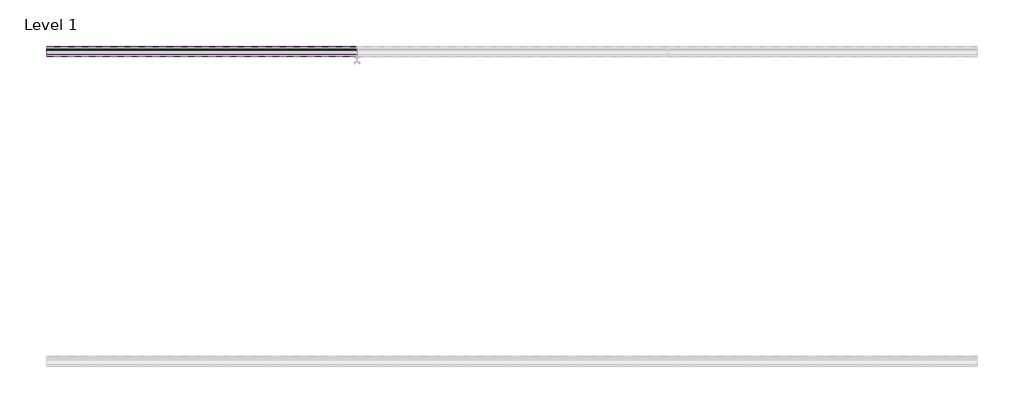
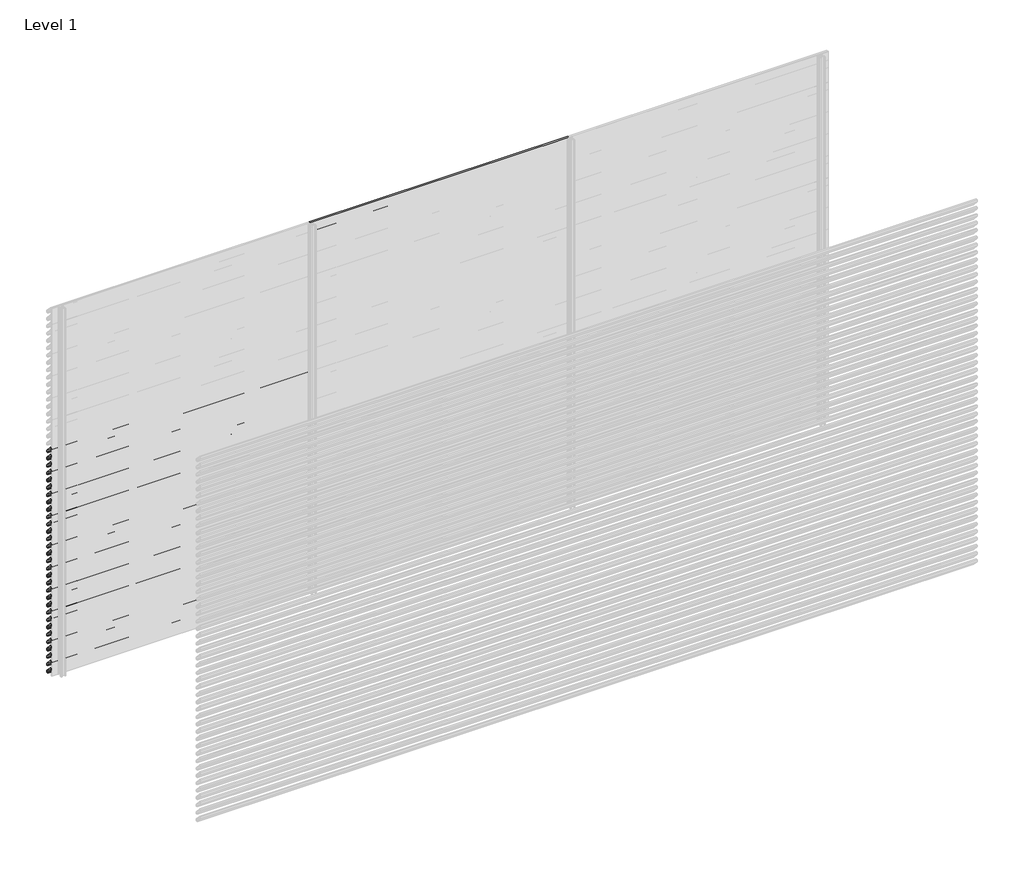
# One storey, part 51 of 153: 33 proxies.
"""IFC4 building model written with IfcOpenShell, lengths in millimetres."""

from ifc_helpers import new_model, si_unit, point, frame, frame_2d, origin, place, context, project, spatial, polyline, circle_curve, trimmed, segment, composite_curve, outline, extrude, element, save

model = new_model("IFC4")

# Units and contexts
model_context = context("Model", 3, world=origin())
ifc_project = project(units=[si_unit("LENGTHUNIT", "METRE", prefix="MILLI")], contexts=[model_context])

# Site, building, storey
site = spatial("IfcSite", under=ifc_project)
building = spatial("IfcBuilding", under=site)
storey = spatial("IfcBuildingStorey", under=building, Name="Level 1", Elevation=0.0)

# Proxies
placement = place(None, origin())
element("IfcBuildingElementProxy", 1, Name="Wall Sweeps", at=placement, inside=storey, context=model_context, shape_type="SweptSolid", body=[
    extrude(outline(composite_curve([segment(polyline([(21485.0540136, 1860.0), (21499.874191, 1858.7034025), (21549.0540136, 1805.0102749), (21549.0540136, 1793.6108187)]), True, "CONTINUOUS"), segment(trimmed(circle_curve(frame_2d((21545.7883652, 1793.897153)), 3.2781774), [point((21549.0540136, 1793.6108187))], [point((21546.4639442, 1790.6893438))], False, "CARTESIAN"), True, "CONTINUOUS"), segment(polyline([(21546.4639442, 1790.6893438), (21534.1895723, 1791.6282758), (21485.0540136, 1845.2730773), (21485.0540136, 1860.0)]), True, "CONTINUOUS")], self_intersect=False), holes=[composite_curve([segment(polyline([(21499.1621773, 1857.2599659), (21486.5540136, 1858.3630372), (21486.5540136, 1845.856213), (21534.8952036, 1793.0786805), (21546.3312542, 1792.2038762)]), True, "CONTINUOUS"), segment(trimmed(circle_curve(frame_2d((21545.7883652, 1793.897153)), 1.7781774), [point((21546.3312542, 1792.2038762))], [point((21547.5540136, 1793.6864389))], True, "CARTESIAN"), True, "CONTINUOUS"), segment(polyline([(21547.5540136, 1793.6864389), (21547.5540136, 1804.4271392), (21499.1621773, 1857.2599659)]), True, "CONTINUOUS")], self_intersect=False)]), frame((44966.6208097, 0.0, 0.0), z_axis=(1.0, 0.0, 0.0), x_axis=(0.0, 1.0, 0.0)), (0.0, 0.0, 1.0), 2000.0000001),
])
element("IfcBuildingElementProxy", 2, Name="Wall Sweeps", at=placement, inside=storey, context=model_context, shape_type="SweptSolid", body=[
    extrude(outline(composite_curve([segment(polyline([(21485.0540136, 1800.0), (21499.874191, 1798.7034025), (21549.0540136, 1745.0102749), (21549.0540136, 1733.6108187)]), True, "CONTINUOUS"), segment(trimmed(circle_curve(frame_2d((21545.7883652, 1733.897153)), 3.2781774), [point((21549.0540136, 1733.6108187))], [point((21546.4639442, 1730.6893438))], False, "CARTESIAN"), True, "CONTINUOUS"), segment(polyline([(21546.4639442, 1730.6893438), (21534.1895723, 1731.6282758), (21485.0540136, 1785.2730773), (21485.0540136, 1800.0)]), True, "CONTINUOUS")], self_intersect=False), holes=[composite_curve([segment(polyline([(21499.1621773, 1797.2599659), (21486.5540136, 1798.3630372), (21486.5540136, 1785.856213), (21534.8952036, 1733.0786805), (21546.3312542, 1732.2038762)]), True, "CONTINUOUS"), segment(trimmed(circle_curve(frame_2d((21545.7883652, 1733.897153)), 1.7781774), [point((21546.3312542, 1732.2038762))], [point((21547.5540136, 1733.6864389))], True, "CARTESIAN"), True, "CONTINUOUS"), segment(polyline([(21547.5540136, 1733.6864389), (21547.5540136, 1744.4271392), (21499.1621773, 1797.2599659)]), True, "CONTINUOUS")], self_intersect=False)]), frame((44966.6208097, 0.0, 0.0), z_axis=(1.0, 0.0, 0.0), x_axis=(0.0, 1.0, 0.0)), (0.0, 0.0, 1.0), 2000.0000001),
])
element("IfcBuildingElementProxy", 3, Name="Wall Sweeps", at=placement, inside=storey, context=model_context, shape_type="SweptSolid", body=[
    extrude(outline(composite_curve([segment(polyline([(21485.0540136, 1740.0), (21499.874191, 1738.7034025), (21549.0540136, 1685.0102749), (21549.0540136, 1673.6108187)]), True, "CONTINUOUS"), segment(trimmed(circle_curve(frame_2d((21545.7883652, 1673.897153)), 3.2781774), [point((21549.0540136, 1673.6108187))], [point((21546.4639442, 1670.6893438))], False, "CARTESIAN"), True, "CONTINUOUS"), segment(polyline([(21546.4639442, 1670.6893438), (21534.1895723, 1671.6282758), (21485.0540136, 1725.2730773), (21485.0540136, 1740.0)]), True, "CONTINUOUS")], self_intersect=False), holes=[composite_curve([segment(polyline([(21499.1621773, 1737.2599659), (21486.5540136, 1738.3630372), (21486.5540136, 1725.856213), (21534.8952036, 1673.0786805), (21546.3312542, 1672.2038762)]), True, "CONTINUOUS"), segment(trimmed(circle_curve(frame_2d((21545.7883652, 1673.897153)), 1.7781774), [point((21546.3312542, 1672.2038762))], [point((21547.5540136, 1673.6864389))], True, "CARTESIAN"), True, "CONTINUOUS"), segment(polyline([(21547.5540136, 1673.6864389), (21547.5540136, 1684.4271392), (21499.1621773, 1737.2599659)]), True, "CONTINUOUS")], self_intersect=False)]), frame((44966.6208097, 0.0, 0.0), z_axis=(1.0, 0.0, 0.0), x_axis=(0.0, 1.0, 0.0)), (0.0, 0.0, 1.0), 2000.0000001),
])
element("IfcBuildingElementProxy", 4, Name="Wall Sweeps", at=placement, inside=storey, context=model_context, shape_type="SweptSolid", body=[
    extrude(outline(composite_curve([segment(polyline([(21485.0540136, 1680.0), (21499.874191, 1678.7034025), (21549.0540136, 1625.0102749), (21549.0540136, 1613.6108187)]), True, "CONTINUOUS"), segment(trimmed(circle_curve(frame_2d((21545.7883652, 1613.897153)), 3.2781774), [point((21549.0540136, 1613.6108187))], [point((21546.4639442, 1610.6893438))], False, "CARTESIAN"), True, "CONTINUOUS"), segment(polyline([(21546.4639442, 1610.6893438), (21534.1895723, 1611.6282758), (21485.0540136, 1665.2730773), (21485.0540136, 1680.0)]), True, "CONTINUOUS")], self_intersect=False), holes=[composite_curve([segment(polyline([(21499.1621773, 1677.2599659), (21486.5540136, 1678.3630372), (21486.5540136, 1665.856213), (21534.8952036, 1613.0786805), (21546.3312542, 1612.2038762)]), True, "CONTINUOUS"), segment(trimmed(circle_curve(frame_2d((21545.7883652, 1613.897153)), 1.7781774), [point((21546.3312542, 1612.2038762))], [point((21547.5540136, 1613.6864389))], True, "CARTESIAN"), True, "CONTINUOUS"), segment(polyline([(21547.5540136, 1613.6864389), (21547.5540136, 1624.4271392), (21499.1621773, 1677.2599659)]), True, "CONTINUOUS")], self_intersect=False)]), frame((44966.6208097, 0.0, 0.0), z_axis=(1.0, 0.0, 0.0), x_axis=(0.0, 1.0, 0.0)), (0.0, 0.0, 1.0), 2000.0000001),
])
element("IfcBuildingElementProxy", 5, Name="Wall Sweeps", at=placement, inside=storey, context=model_context, shape_type="SweptSolid", body=[
    extrude(outline(composite_curve([segment(polyline([(21485.0540136, 1620.0), (21499.874191, 1618.7034025), (21549.0540136, 1565.0102749), (21549.0540136, 1553.6108187)]), True, "CONTINUOUS"), segment(trimmed(circle_curve(frame_2d((21545.7883652, 1553.897153)), 3.2781774), [point((21549.0540136, 1553.6108187))], [point((21546.4639442, 1550.6893438))], False, "CARTESIAN"), True, "CONTINUOUS"), segment(polyline([(21546.4639442, 1550.6893438), (21534.1895723, 1551.6282758), (21485.0540136, 1605.2730773), (21485.0540136, 1620.0)]), True, "CONTINUOUS")], self_intersect=False), holes=[composite_curve([segment(polyline([(21499.1621773, 1617.2599659), (21486.5540136, 1618.3630372), (21486.5540136, 1605.856213), (21534.8952036, 1553.0786805), (21546.3312542, 1552.2038762)]), True, "CONTINUOUS"), segment(trimmed(circle_curve(frame_2d((21545.7883652, 1553.897153)), 1.7781774), [point((21546.3312542, 1552.2038762))], [point((21547.5540136, 1553.6864389))], True, "CARTESIAN"), True, "CONTINUOUS"), segment(polyline([(21547.5540136, 1553.6864389), (21547.5540136, 1564.4271392), (21499.1621773, 1617.2599659)]), True, "CONTINUOUS")], self_intersect=False)]), frame((44966.6208097, 0.0, 0.0), z_axis=(1.0, 0.0, 0.0), x_axis=(0.0, 1.0, 0.0)), (0.0, 0.0, 1.0), 2000.0000001),
])
element("IfcBuildingElementProxy", 6, Name="Wall Sweeps", at=placement, inside=storey, context=model_context, shape_type="SweptSolid", body=[
    extrude(outline(composite_curve([segment(polyline([(21485.0540136, 1560.0), (21499.874191, 1558.7034025), (21549.0540136, 1505.0102749), (21549.0540136, 1493.6108187)]), True, "CONTINUOUS"), segment(trimmed(circle_curve(frame_2d((21545.7883652, 1493.897153)), 3.2781774), [point((21549.0540136, 1493.6108187))], [point((21546.4639442, 1490.6893438))], False, "CARTESIAN"), True, "CONTINUOUS"), segment(polyline([(21546.4639442, 1490.6893438), (21534.1895723, 1491.6282758), (21485.0540136, 1545.2730773), (21485.0540136, 1560.0)]), True, "CONTINUOUS")], self_intersect=False), holes=[composite_curve([segment(polyline([(21499.1621773, 1557.2599659), (21486.5540136, 1558.3630372), (21486.5540136, 1545.856213), (21534.8952036, 1493.0786805), (21546.3312542, 1492.2038762)]), True, "CONTINUOUS"), segment(trimmed(circle_curve(frame_2d((21545.7883652, 1493.897153)), 1.7781774), [point((21546.3312542, 1492.2038762))], [point((21547.5540136, 1493.6864389))], True, "CARTESIAN"), True, "CONTINUOUS"), segment(polyline([(21547.5540136, 1493.6864389), (21547.5540136, 1504.4271392), (21499.1621773, 1557.2599659)]), True, "CONTINUOUS")], self_intersect=False)]), frame((44966.6208097, 0.0, 0.0), z_axis=(1.0, 0.0, 0.0), x_axis=(0.0, 1.0, 0.0)), (0.0, 0.0, 1.0), 2000.0000001),
])
element("IfcBuildingElementProxy", 7, Name="Wall Sweeps", at=placement, inside=storey, context=model_context, shape_type="SweptSolid", body=[
    extrude(outline(composite_curve([segment(polyline([(21485.0540136, 1500.0), (21499.874191, 1498.7034025), (21549.0540136, 1445.0102749), (21549.0540136, 1433.6108187)]), True, "CONTINUOUS"), segment(trimmed(circle_curve(frame_2d((21545.7883652, 1433.897153)), 3.2781774), [point((21549.0540136, 1433.6108187))], [point((21546.4639442, 1430.6893438))], False, "CARTESIAN"), True, "CONTINUOUS"), segment(polyline([(21546.4639442, 1430.6893438), (21534.1895723, 1431.6282758), (21485.0540136, 1485.2730773), (21485.0540136, 1500.0)]), True, "CONTINUOUS")], self_intersect=False), holes=[composite_curve([segment(polyline([(21499.1621773, 1497.2599659), (21486.5540136, 1498.3630372), (21486.5540136, 1485.856213), (21534.8952036, 1433.0786805), (21546.3312542, 1432.2038762)]), True, "CONTINUOUS"), segment(trimmed(circle_curve(frame_2d((21545.7883652, 1433.897153)), 1.7781774), [point((21546.3312542, 1432.2038762))], [point((21547.5540136, 1433.6864389))], True, "CARTESIAN"), True, "CONTINUOUS"), segment(polyline([(21547.5540136, 1433.6864389), (21547.5540136, 1444.4271392), (21499.1621773, 1497.2599659)]), True, "CONTINUOUS")], self_intersect=False)]), frame((44966.6208097, 0.0, 0.0), z_axis=(1.0, 0.0, 0.0), x_axis=(0.0, 1.0, 0.0)), (0.0, 0.0, 1.0), 2000.0000001),
])
element("IfcBuildingElementProxy", 8, Name="Wall Sweeps", at=placement, inside=storey, context=model_context, shape_type="SweptSolid", body=[
    extrude(outline(composite_curve([segment(polyline([(21485.0540136, 1440.0), (21499.874191, 1438.7034025), (21549.0540136, 1385.0102749), (21549.0540136, 1373.6108187)]), True, "CONTINUOUS"), segment(trimmed(circle_curve(frame_2d((21545.7883652, 1373.897153)), 3.2781774), [point((21549.0540136, 1373.6108187))], [point((21546.4639442, 1370.6893438))], False, "CARTESIAN"), True, "CONTINUOUS"), segment(polyline([(21546.4639442, 1370.6893438), (21534.1895723, 1371.6282758), (21485.0540136, 1425.2730773), (21485.0540136, 1440.0)]), True, "CONTINUOUS")], self_intersect=False), holes=[composite_curve([segment(polyline([(21499.1621773, 1437.2599659), (21486.5540136, 1438.3630372), (21486.5540136, 1425.856213), (21534.8952036, 1373.0786805), (21546.3312542, 1372.2038762)]), True, "CONTINUOUS"), segment(trimmed(circle_curve(frame_2d((21545.7883652, 1373.897153)), 1.7781774), [point((21546.3312542, 1372.2038762))], [point((21547.5540136, 1373.6864389))], True, "CARTESIAN"), True, "CONTINUOUS"), segment(polyline([(21547.5540136, 1373.6864389), (21547.5540136, 1384.4271392), (21499.1621773, 1437.2599659)]), True, "CONTINUOUS")], self_intersect=False)]), frame((44966.6208097, 0.0, 0.0), z_axis=(1.0, 0.0, 0.0), x_axis=(0.0, 1.0, 0.0)), (0.0, 0.0, 1.0), 2000.0000001),
])
element("IfcBuildingElementProxy", 9, Name="Wall Sweeps", at=placement, inside=storey, context=model_context, shape_type="SweptSolid", body=[
    extrude(outline(composite_curve([segment(polyline([(21485.0540136, 1380.0), (21499.874191, 1378.7034025), (21549.0540136, 1325.0102749), (21549.0540136, 1313.6108187)]), True, "CONTINUOUS"), segment(trimmed(circle_curve(frame_2d((21545.7883652, 1313.897153)), 3.2781774), [point((21549.0540136, 1313.6108187))], [point((21546.4639442, 1310.6893438))], False, "CARTESIAN"), True, "CONTINUOUS"), segment(polyline([(21546.4639442, 1310.6893438), (21534.1895723, 1311.6282758), (21485.0540136, 1365.2730773), (21485.0540136, 1380.0)]), True, "CONTINUOUS")], self_intersect=False), holes=[composite_curve([segment(polyline([(21499.1621773, 1377.2599659), (21486.5540136, 1378.3630372), (21486.5540136, 1365.856213), (21534.8952036, 1313.0786805), (21546.3312542, 1312.2038762)]), True, "CONTINUOUS"), segment(trimmed(circle_curve(frame_2d((21545.7883652, 1313.897153)), 1.7781774), [point((21546.3312542, 1312.2038762))], [point((21547.5540136, 1313.6864389))], True, "CARTESIAN"), True, "CONTINUOUS"), segment(polyline([(21547.5540136, 1313.6864389), (21547.5540136, 1324.4271392), (21499.1621773, 1377.2599659)]), True, "CONTINUOUS")], self_intersect=False)]), frame((44966.6208097, 0.0, 0.0), z_axis=(1.0, 0.0, 0.0), x_axis=(0.0, 1.0, 0.0)), (0.0, 0.0, 1.0), 2000.0000001),
])
element("IfcBuildingElementProxy", 10, Name="Wall Sweeps", at=placement, inside=storey, context=model_context, shape_type="SweptSolid", body=[
    extrude(outline(composite_curve([segment(polyline([(21485.0540136, 1320.0), (21499.874191, 1318.7034025), (21549.0540136, 1265.0102749), (21549.0540136, 1253.6108187)]), True, "CONTINUOUS"), segment(trimmed(circle_curve(frame_2d((21545.7883652, 1253.897153)), 3.2781774), [point((21549.0540136, 1253.6108187))], [point((21546.4639442, 1250.6893438))], False, "CARTESIAN"), True, "CONTINUOUS"), segment(polyline([(21546.4639442, 1250.6893438), (21534.1895723, 1251.6282758), (21485.0540136, 1305.2730773), (21485.0540136, 1320.0)]), True, "CONTINUOUS")], self_intersect=False), holes=[composite_curve([segment(polyline([(21499.1621773, 1317.2599659), (21486.5540136, 1318.3630372), (21486.5540136, 1305.856213), (21534.8952036, 1253.0786805), (21546.3312542, 1252.2038762)]), True, "CONTINUOUS"), segment(trimmed(circle_curve(frame_2d((21545.7883652, 1253.897153)), 1.7781774), [point((21546.3312542, 1252.2038762))], [point((21547.5540136, 1253.6864389))], True, "CARTESIAN"), True, "CONTINUOUS"), segment(polyline([(21547.5540136, 1253.6864389), (21547.5540136, 1264.4271392), (21499.1621773, 1317.2599659)]), True, "CONTINUOUS")], self_intersect=False)]), frame((44966.6208097, 0.0, 0.0), z_axis=(1.0, 0.0, 0.0), x_axis=(0.0, 1.0, 0.0)), (0.0, 0.0, 1.0), 2000.0000001),
])
element("IfcBuildingElementProxy", 11, Name="Wall Sweeps", at=placement, inside=storey, context=model_context, shape_type="SweptSolid", body=[
    extrude(outline(composite_curve([segment(polyline([(21485.0540136, 1260.0), (21499.874191, 1258.7034025), (21549.0540136, 1205.0102749), (21549.0540136, 1193.6108187)]), True, "CONTINUOUS"), segment(trimmed(circle_curve(frame_2d((21545.7883652, 1193.897153)), 3.2781774), [point((21549.0540136, 1193.6108187))], [point((21546.4639442, 1190.6893438))], False, "CARTESIAN"), True, "CONTINUOUS"), segment(polyline([(21546.4639442, 1190.6893438), (21534.1895723, 1191.6282758), (21485.0540136, 1245.2730773), (21485.0540136, 1260.0)]), True, "CONTINUOUS")], self_intersect=False), holes=[composite_curve([segment(polyline([(21499.1621773, 1257.2599659), (21486.5540136, 1258.3630372), (21486.5540136, 1245.856213), (21534.8952036, 1193.0786805), (21546.3312542, 1192.2038762)]), True, "CONTINUOUS"), segment(trimmed(circle_curve(frame_2d((21545.7883652, 1193.897153)), 1.7781774), [point((21546.3312542, 1192.2038762))], [point((21547.5540136, 1193.6864389))], True, "CARTESIAN"), True, "CONTINUOUS"), segment(polyline([(21547.5540136, 1193.6864389), (21547.5540136, 1204.4271392), (21499.1621773, 1257.2599659)]), True, "CONTINUOUS")], self_intersect=False)]), frame((44966.6208097, 0.0, 0.0), z_axis=(1.0, 0.0, 0.0), x_axis=(0.0, 1.0, 0.0)), (0.0, 0.0, 1.0), 2000.0000001),
])
element("IfcBuildingElementProxy", 12, Name="Wall Sweeps", at=placement, inside=storey, context=model_context, shape_type="SweptSolid", body=[
    extrude(outline(composite_curve([segment(polyline([(21485.0540136, 1200.0), (21499.874191, 1198.7034025), (21549.0540136, 1145.0102749), (21549.0540136, 1133.6108187)]), True, "CONTINUOUS"), segment(trimmed(circle_curve(frame_2d((21545.7883652, 1133.897153)), 3.2781774), [point((21549.0540136, 1133.6108187))], [point((21546.4639442, 1130.6893438))], False, "CARTESIAN"), True, "CONTINUOUS"), segment(polyline([(21546.4639442, 1130.6893438), (21534.1895723, 1131.6282758), (21485.0540136, 1185.2730773), (21485.0540136, 1200.0)]), True, "CONTINUOUS")], self_intersect=False), holes=[composite_curve([segment(polyline([(21499.1621773, 1197.2599659), (21486.5540136, 1198.3630372), (21486.5540136, 1185.856213), (21534.8952036, 1133.0786805), (21546.3312542, 1132.2038762)]), True, "CONTINUOUS"), segment(trimmed(circle_curve(frame_2d((21545.7883652, 1133.897153)), 1.7781774), [point((21546.3312542, 1132.2038762))], [point((21547.5540136, 1133.6864389))], True, "CARTESIAN"), True, "CONTINUOUS"), segment(polyline([(21547.5540136, 1133.6864389), (21547.5540136, 1144.4271392), (21499.1621773, 1197.2599659)]), True, "CONTINUOUS")], self_intersect=False)]), frame((44966.6208097, 0.0, 0.0), z_axis=(1.0, 0.0, 0.0), x_axis=(0.0, 1.0, 0.0)), (0.0, 0.0, 1.0), 2000.0000001),
])
element("IfcBuildingElementProxy", 13, Name="Wall Sweeps", at=placement, inside=storey, context=model_context, shape_type="SweptSolid", body=[
    extrude(outline(composite_curve([segment(polyline([(21485.0540136, 1140.0), (21499.874191, 1138.7034025), (21549.0540136, 1085.0102749), (21549.0540136, 1073.6108187)]), True, "CONTINUOUS"), segment(trimmed(circle_curve(frame_2d((21545.7883652, 1073.897153)), 3.2781774), [point((21549.0540136, 1073.6108187))], [point((21546.4639442, 1070.6893438))], False, "CARTESIAN"), True, "CONTINUOUS"), segment(polyline([(21546.4639442, 1070.6893438), (21534.1895723, 1071.6282758), (21485.0540136, 1125.2730773), (21485.0540136, 1140.0)]), True, "CONTINUOUS")], self_intersect=False), holes=[composite_curve([segment(polyline([(21499.1621773, 1137.2599659), (21486.5540136, 1138.3630372), (21486.5540136, 1125.856213), (21534.8952036, 1073.0786805), (21546.3312542, 1072.2038762)]), True, "CONTINUOUS"), segment(trimmed(circle_curve(frame_2d((21545.7883652, 1073.897153)), 1.7781774), [point((21546.3312542, 1072.2038762))], [point((21547.5540136, 1073.6864389))], True, "CARTESIAN"), True, "CONTINUOUS"), segment(polyline([(21547.5540136, 1073.6864389), (21547.5540136, 1084.4271392), (21499.1621773, 1137.2599659)]), True, "CONTINUOUS")], self_intersect=False)]), frame((44966.6208097, 0.0, 0.0), z_axis=(1.0, 0.0, 0.0), x_axis=(0.0, 1.0, 0.0)), (0.0, 0.0, 1.0), 2000.0000001),
])
element("IfcBuildingElementProxy", 14, Name="Wall Sweeps", at=placement, inside=storey, context=model_context, shape_type="SweptSolid", body=[
    extrude(outline(composite_curve([segment(polyline([(21485.0540136, 1080.0), (21499.874191, 1078.7034025), (21549.0540136, 1025.0102749), (21549.0540136, 1013.6108187)]), True, "CONTINUOUS"), segment(trimmed(circle_curve(frame_2d((21545.7883652, 1013.897153)), 3.2781774), [point((21549.0540136, 1013.6108187))], [point((21546.4639442, 1010.6893438))], False, "CARTESIAN"), True, "CONTINUOUS"), segment(polyline([(21546.4639442, 1010.6893438), (21534.1895723, 1011.6282758), (21485.0540136, 1065.2730773), (21485.0540136, 1080.0)]), True, "CONTINUOUS")], self_intersect=False), holes=[composite_curve([segment(polyline([(21499.1621773, 1077.2599659), (21486.5540136, 1078.3630372), (21486.5540136, 1065.856213), (21534.8952036, 1013.0786805), (21546.3312542, 1012.2038762)]), True, "CONTINUOUS"), segment(trimmed(circle_curve(frame_2d((21545.7883652, 1013.897153)), 1.7781774), [point((21546.3312542, 1012.2038762))], [point((21547.5540136, 1013.6864389))], True, "CARTESIAN"), True, "CONTINUOUS"), segment(polyline([(21547.5540136, 1013.6864389), (21547.5540136, 1024.4271392), (21499.1621773, 1077.2599659)]), True, "CONTINUOUS")], self_intersect=False)]), frame((44966.6208097, 0.0, 0.0), z_axis=(1.0, 0.0, 0.0), x_axis=(0.0, 1.0, 0.0)), (0.0, 0.0, 1.0), 2000.0000001),
])
element("IfcBuildingElementProxy", 15, Name="Wall Sweeps", at=placement, inside=storey, context=model_context, shape_type="SweptSolid", body=[
    extrude(outline(composite_curve([segment(polyline([(21485.0540136, 1020.0), (21499.874191, 1018.7034025), (21549.0540136, 965.0102749), (21549.0540136, 953.6108187)]), True, "CONTINUOUS"), segment(trimmed(circle_curve(frame_2d((21545.7883652, 953.897153)), 3.2781774), [point((21549.0540136, 953.6108187))], [point((21546.4639442, 950.6893438))], False, "CARTESIAN"), True, "CONTINUOUS"), segment(polyline([(21546.4639442, 950.6893438), (21534.1895723, 951.6282758), (21485.0540136, 1005.2730773), (21485.0540136, 1020.0)]), True, "CONTINUOUS")], self_intersect=False), holes=[composite_curve([segment(polyline([(21499.1621773, 1017.2599659), (21486.5540136, 1018.3630372), (21486.5540136, 1005.856213), (21534.8952036, 953.0786805), (21546.3312542, 952.2038762)]), True, "CONTINUOUS"), segment(trimmed(circle_curve(frame_2d((21545.7883652, 953.897153)), 1.7781774), [point((21546.3312542, 952.2038762))], [point((21547.5540136, 953.6864389))], True, "CARTESIAN"), True, "CONTINUOUS"), segment(polyline([(21547.5540136, 953.6864389), (21547.5540136, 964.4271392), (21499.1621773, 1017.2599659)]), True, "CONTINUOUS")], self_intersect=False)]), frame((44966.6208097, 0.0, 0.0), z_axis=(1.0, 0.0, 0.0), x_axis=(0.0, 1.0, 0.0)), (0.0, 0.0, 1.0), 2000.0000001),
])
element("IfcBuildingElementProxy", 16, Name="Wall Sweeps", at=placement, inside=storey, context=model_context, shape_type="SweptSolid", body=[
    extrude(outline(composite_curve([segment(polyline([(21485.0540136, 960.0), (21499.874191, 958.7034025), (21549.0540136, 905.0102749), (21549.0540136, 893.6108187)]), True, "CONTINUOUS"), segment(trimmed(circle_curve(frame_2d((21545.7883652, 893.897153)), 3.2781774), [point((21549.0540136, 893.6108187))], [point((21546.4639442, 890.6893438))], False, "CARTESIAN"), True, "CONTINUOUS"), segment(polyline([(21546.4639442, 890.6893438), (21534.1895723, 891.6282758), (21485.0540136, 945.2730773), (21485.0540136, 960.0)]), True, "CONTINUOUS")], self_intersect=False), holes=[composite_curve([segment(polyline([(21499.1621773, 957.2599659), (21486.5540136, 958.3630372), (21486.5540136, 945.856213), (21534.8952036, 893.0786805), (21546.3312542, 892.2038762)]), True, "CONTINUOUS"), segment(trimmed(circle_curve(frame_2d((21545.7883652, 893.897153)), 1.7781774), [point((21546.3312542, 892.2038762))], [point((21547.5540136, 893.6864389))], True, "CARTESIAN"), True, "CONTINUOUS"), segment(polyline([(21547.5540136, 893.6864389), (21547.5540136, 904.4271392), (21499.1621773, 957.2599659)]), True, "CONTINUOUS")], self_intersect=False)]), frame((44966.6208097, 0.0, 0.0), z_axis=(1.0, 0.0, 0.0), x_axis=(0.0, 1.0, 0.0)), (0.0, 0.0, 1.0), 2000.0000001),
])
element("IfcBuildingElementProxy", 17, Name="Wall Sweeps", at=placement, inside=storey, context=model_context, shape_type="SweptSolid", body=[
    extrude(outline(composite_curve([segment(polyline([(21485.0540136, 900.0), (21499.874191, 898.7034025), (21549.0540136, 845.0102749), (21549.0540136, 833.6108187)]), True, "CONTINUOUS"), segment(trimmed(circle_curve(frame_2d((21545.7883652, 833.897153)), 3.2781774), [point((21549.0540136, 833.6108187))], [point((21546.4639442, 830.6893438))], False, "CARTESIAN"), True, "CONTINUOUS"), segment(polyline([(21546.4639442, 830.6893438), (21534.1895723, 831.6282758), (21485.0540136, 885.2730773), (21485.0540136, 900.0)]), True, "CONTINUOUS")], self_intersect=False), holes=[composite_curve([segment(polyline([(21499.1621773, 897.2599659), (21486.5540136, 898.3630372), (21486.5540136, 885.856213), (21534.8952036, 833.0786805), (21546.3312542, 832.2038762)]), True, "CONTINUOUS"), segment(trimmed(circle_curve(frame_2d((21545.7883652, 833.897153)), 1.7781774), [point((21546.3312542, 832.2038762))], [point((21547.5540136, 833.6864389))], True, "CARTESIAN"), True, "CONTINUOUS"), segment(polyline([(21547.5540136, 833.6864389), (21547.5540136, 844.4271392), (21499.1621773, 897.2599659)]), True, "CONTINUOUS")], self_intersect=False)]), frame((44966.6208097, 0.0, 0.0), z_axis=(1.0, 0.0, 0.0), x_axis=(0.0, 1.0, 0.0)), (0.0, 0.0, 1.0), 2000.0000001),
])
element("IfcBuildingElementProxy", 18, Name="Wall Sweeps", at=placement, inside=storey, context=model_context, shape_type="SweptSolid", body=[
    extrude(outline(composite_curve([segment(polyline([(21485.0540136, 840.0), (21499.874191, 838.7034025), (21549.0540136, 785.0102749), (21549.0540136, 773.6108187)]), True, "CONTINUOUS"), segment(trimmed(circle_curve(frame_2d((21545.7883652, 773.897153)), 3.2781774), [point((21549.0540136, 773.6108187))], [point((21546.4639442, 770.6893438))], False, "CARTESIAN"), True, "CONTINUOUS"), segment(polyline([(21546.4639442, 770.6893438), (21534.1895723, 771.6282758), (21485.0540136, 825.2730773), (21485.0540136, 840.0)]), True, "CONTINUOUS")], self_intersect=False), holes=[composite_curve([segment(polyline([(21499.1621773, 837.2599659), (21486.5540136, 838.3630372), (21486.5540136, 825.856213), (21534.8952036, 773.0786805), (21546.3312542, 772.2038762)]), True, "CONTINUOUS"), segment(trimmed(circle_curve(frame_2d((21545.7883652, 773.897153)), 1.7781774), [point((21546.3312542, 772.2038762))], [point((21547.5540136, 773.6864389))], True, "CARTESIAN"), True, "CONTINUOUS"), segment(polyline([(21547.5540136, 773.6864389), (21547.5540136, 784.4271392), (21499.1621773, 837.2599659)]), True, "CONTINUOUS")], self_intersect=False)]), frame((44966.6208097, 0.0, 0.0), z_axis=(1.0, 0.0, 0.0), x_axis=(0.0, 1.0, 0.0)), (0.0, 0.0, 1.0), 2000.0000001),
])
element("IfcBuildingElementProxy", 19, Name="Wall Sweeps", at=placement, inside=storey, context=model_context, shape_type="SweptSolid", body=[
    extrude(outline(composite_curve([segment(polyline([(21485.0540136, 780.0), (21499.874191, 778.7034025), (21549.0540136, 725.0102749), (21549.0540136, 713.6108187)]), True, "CONTINUOUS"), segment(trimmed(circle_curve(frame_2d((21545.7883652, 713.897153)), 3.2781774), [point((21549.0540136, 713.6108187))], [point((21546.4639442, 710.6893438))], False, "CARTESIAN"), True, "CONTINUOUS"), segment(polyline([(21546.4639442, 710.6893438), (21534.1895723, 711.6282758), (21485.0540136, 765.2730773), (21485.0540136, 780.0)]), True, "CONTINUOUS")], self_intersect=False), holes=[composite_curve([segment(polyline([(21499.1621773, 777.2599659), (21486.5540136, 778.3630372), (21486.5540136, 765.856213), (21534.8952036, 713.0786805), (21546.3312542, 712.2038762)]), True, "CONTINUOUS"), segment(trimmed(circle_curve(frame_2d((21545.7883652, 713.897153)), 1.7781774), [point((21546.3312542, 712.2038762))], [point((21547.5540136, 713.6864389))], True, "CARTESIAN"), True, "CONTINUOUS"), segment(polyline([(21547.5540136, 713.6864389), (21547.5540136, 724.4271392), (21499.1621773, 777.2599659)]), True, "CONTINUOUS")], self_intersect=False)]), frame((44966.6208097, 0.0, 0.0), z_axis=(1.0, 0.0, 0.0), x_axis=(0.0, 1.0, 0.0)), (0.0, 0.0, 1.0), 2000.0000001),
])
element("IfcBuildingElementProxy", 20, Name="Wall Sweeps", at=placement, inside=storey, context=model_context, shape_type="SweptSolid", body=[
    extrude(outline(composite_curve([segment(polyline([(21485.0540136, 720.0), (21499.874191, 718.7034025), (21549.0540136, 665.0102749), (21549.0540136, 653.6108187)]), True, "CONTINUOUS"), segment(trimmed(circle_curve(frame_2d((21545.7883652, 653.897153)), 3.2781774), [point((21549.0540136, 653.6108187))], [point((21546.4639442, 650.6893438))], False, "CARTESIAN"), True, "CONTINUOUS"), segment(polyline([(21546.4639442, 650.6893438), (21534.1895723, 651.6282758), (21485.0540136, 705.2730773), (21485.0540136, 720.0)]), True, "CONTINUOUS")], self_intersect=False), holes=[composite_curve([segment(polyline([(21499.1621773, 717.2599659), (21486.5540136, 718.3630372), (21486.5540136, 705.856213), (21534.8952036, 653.0786805), (21546.3312542, 652.2038762)]), True, "CONTINUOUS"), segment(trimmed(circle_curve(frame_2d((21545.7883652, 653.897153)), 1.7781774), [point((21546.3312542, 652.2038762))], [point((21547.5540136, 653.6864389))], True, "CARTESIAN"), True, "CONTINUOUS"), segment(polyline([(21547.5540136, 653.6864389), (21547.5540136, 664.4271392), (21499.1621773, 717.2599659)]), True, "CONTINUOUS")], self_intersect=False)]), frame((44966.6208097, 0.0, 0.0), z_axis=(1.0, 0.0, 0.0), x_axis=(0.0, 1.0, 0.0)), (0.0, 0.0, 1.0), 2000.0000001),
])
element("IfcBuildingElementProxy", 21, Name="Wall Sweeps", at=placement, inside=storey, context=model_context, shape_type="SweptSolid", body=[
    extrude(outline(composite_curve([segment(polyline([(21485.0540136, 660.0), (21499.874191, 658.7034025), (21549.0540136, 605.0102749), (21549.0540136, 593.6108187)]), True, "CONTINUOUS"), segment(trimmed(circle_curve(frame_2d((21545.7883652, 593.897153)), 3.2781774), [point((21549.0540136, 593.6108187))], [point((21546.4639442, 590.6893438))], False, "CARTESIAN"), True, "CONTINUOUS"), segment(polyline([(21546.4639442, 590.6893438), (21534.1895723, 591.6282758), (21485.0540136, 645.2730773), (21485.0540136, 660.0)]), True, "CONTINUOUS")], self_intersect=False), holes=[composite_curve([segment(polyline([(21499.1621773, 657.2599659), (21486.5540136, 658.3630372), (21486.5540136, 645.856213), (21534.8952036, 593.0786805), (21546.3312542, 592.2038762)]), True, "CONTINUOUS"), segment(trimmed(circle_curve(frame_2d((21545.7883652, 593.897153)), 1.7781774), [point((21546.3312542, 592.2038762))], [point((21547.5540136, 593.6864389))], True, "CARTESIAN"), True, "CONTINUOUS"), segment(polyline([(21547.5540136, 593.6864389), (21547.5540136, 604.4271392), (21499.1621773, 657.2599659)]), True, "CONTINUOUS")], self_intersect=False)]), frame((44966.6208097, 0.0, 0.0), z_axis=(1.0, 0.0, 0.0), x_axis=(0.0, 1.0, 0.0)), (0.0, 0.0, 1.0), 2000.0000001),
])
element("IfcBuildingElementProxy", 22, Name="Wall Sweeps", at=placement, inside=storey, context=model_context, shape_type="SweptSolid", body=[
    extrude(outline(composite_curve([segment(polyline([(21485.0540136, 600.0), (21499.874191, 598.7034025), (21549.0540136, 545.0102749), (21549.0540136, 533.6108187)]), True, "CONTINUOUS"), segment(trimmed(circle_curve(frame_2d((21545.7883652, 533.897153)), 3.2781774), [point((21549.0540136, 533.6108187))], [point((21546.4639442, 530.6893438))], False, "CARTESIAN"), True, "CONTINUOUS"), segment(polyline([(21546.4639442, 530.6893438), (21534.1895723, 531.6282758), (21485.0540136, 585.2730773), (21485.0540136, 600.0)]), True, "CONTINUOUS")], self_intersect=False), holes=[composite_curve([segment(polyline([(21499.1621773, 597.2599659), (21486.5540136, 598.3630372), (21486.5540136, 585.856213), (21534.8952036, 533.0786805), (21546.3312542, 532.2038762)]), True, "CONTINUOUS"), segment(trimmed(circle_curve(frame_2d((21545.7883652, 533.897153)), 1.7781774), [point((21546.3312542, 532.2038762))], [point((21547.5540136, 533.6864389))], True, "CARTESIAN"), True, "CONTINUOUS"), segment(polyline([(21547.5540136, 533.6864389), (21547.5540136, 544.4271392), (21499.1621773, 597.2599659)]), True, "CONTINUOUS")], self_intersect=False)]), frame((44966.6208097, 0.0, 0.0), z_axis=(1.0, 0.0, 0.0), x_axis=(0.0, 1.0, 0.0)), (0.0, 0.0, 1.0), 2000.0000001),
])
element("IfcBuildingElementProxy", 23, Name="Wall Sweeps", at=placement, inside=storey, context=model_context, shape_type="SweptSolid", body=[
    extrude(outline(composite_curve([segment(polyline([(21485.0540136, 540.0), (21499.874191, 538.7034025), (21549.0540136, 485.0102749), (21549.0540136, 473.6108187)]), True, "CONTINUOUS"), segment(trimmed(circle_curve(frame_2d((21545.7883652, 473.897153)), 3.2781774), [point((21549.0540136, 473.6108187))], [point((21546.4639442, 470.6893438))], False, "CARTESIAN"), True, "CONTINUOUS"), segment(polyline([(21546.4639442, 470.6893438), (21534.1895723, 471.6282758), (21485.0540136, 525.2730773), (21485.0540136, 540.0)]), True, "CONTINUOUS")], self_intersect=False), holes=[composite_curve([segment(polyline([(21499.1621773, 537.2599659), (21486.5540136, 538.3630372), (21486.5540136, 525.856213), (21534.8952036, 473.0786805), (21546.3312542, 472.2038762)]), True, "CONTINUOUS"), segment(trimmed(circle_curve(frame_2d((21545.7883652, 473.897153)), 1.7781774), [point((21546.3312542, 472.2038762))], [point((21547.5540136, 473.6864389))], True, "CARTESIAN"), True, "CONTINUOUS"), segment(polyline([(21547.5540136, 473.6864389), (21547.5540136, 484.4271392), (21499.1621773, 537.2599659)]), True, "CONTINUOUS")], self_intersect=False)]), frame((44966.6208097, 0.0, 0.0), z_axis=(1.0, 0.0, 0.0), x_axis=(0.0, 1.0, 0.0)), (0.0, 0.0, 1.0), 2000.0000001),
])
element("IfcBuildingElementProxy", 24, Name="Wall Sweeps", at=placement, inside=storey, context=model_context, shape_type="SweptSolid", body=[
    extrude(outline(composite_curve([segment(polyline([(21485.0540136, 480.0), (21499.874191, 478.7034025), (21549.0540136, 425.0102749), (21549.0540136, 413.6108187)]), True, "CONTINUOUS"), segment(trimmed(circle_curve(frame_2d((21545.7883652, 413.897153)), 3.2781774), [point((21549.0540136, 413.6108187))], [point((21546.4639442, 410.6893438))], False, "CARTESIAN"), True, "CONTINUOUS"), segment(polyline([(21546.4639442, 410.6893438), (21534.1895723, 411.6282758), (21485.0540136, 465.2730773), (21485.0540136, 480.0)]), True, "CONTINUOUS")], self_intersect=False), holes=[composite_curve([segment(polyline([(21499.1621773, 477.2599659), (21486.5540136, 478.3630372), (21486.5540136, 465.856213), (21534.8952036, 413.0786805), (21546.3312542, 412.2038762)]), True, "CONTINUOUS"), segment(trimmed(circle_curve(frame_2d((21545.7883652, 413.897153)), 1.7781774), [point((21546.3312542, 412.2038762))], [point((21547.5540136, 413.6864389))], True, "CARTESIAN"), True, "CONTINUOUS"), segment(polyline([(21547.5540136, 413.6864389), (21547.5540136, 424.4271392), (21499.1621773, 477.2599659)]), True, "CONTINUOUS")], self_intersect=False)]), frame((44966.6208097, 0.0, 0.0), z_axis=(1.0, 0.0, 0.0), x_axis=(0.0, 1.0, 0.0)), (0.0, 0.0, 1.0), 2000.0000001),
])
element("IfcBuildingElementProxy", 25, Name="Wall Sweeps", at=placement, inside=storey, context=model_context, shape_type="SweptSolid", body=[
    extrude(outline(composite_curve([segment(polyline([(21485.0540136, 420.0), (21499.874191, 418.7034025), (21549.0540136, 365.0102749), (21549.0540136, 353.6108187)]), True, "CONTINUOUS"), segment(trimmed(circle_curve(frame_2d((21545.7883652, 353.897153)), 3.2781774), [point((21549.0540136, 353.6108187))], [point((21546.4639442, 350.6893438))], False, "CARTESIAN"), True, "CONTINUOUS"), segment(polyline([(21546.4639442, 350.6893438), (21534.1895723, 351.6282758), (21485.0540136, 405.2730773), (21485.0540136, 420.0)]), True, "CONTINUOUS")], self_intersect=False), holes=[composite_curve([segment(polyline([(21499.1621773, 417.2599659), (21486.5540136, 418.3630372), (21486.5540136, 405.856213), (21534.8952036, 353.0786805), (21546.3312542, 352.2038762)]), True, "CONTINUOUS"), segment(trimmed(circle_curve(frame_2d((21545.7883652, 353.897153)), 1.7781774), [point((21546.3312542, 352.2038762))], [point((21547.5540136, 353.6864389))], True, "CARTESIAN"), True, "CONTINUOUS"), segment(polyline([(21547.5540136, 353.6864389), (21547.5540136, 364.4271392), (21499.1621773, 417.2599659)]), True, "CONTINUOUS")], self_intersect=False)]), frame((44966.6208097, 0.0, 0.0), z_axis=(1.0, 0.0, 0.0), x_axis=(0.0, 1.0, 0.0)), (0.0, 0.0, 1.0), 2000.0000001),
])
element("IfcBuildingElementProxy", 26, Name="Wall Sweeps", at=placement, inside=storey, context=model_context, shape_type="SweptSolid", body=[
    extrude(outline(composite_curve([segment(polyline([(21485.0540136, 360.0), (21499.874191, 358.7034025), (21549.0540136, 305.0102749), (21549.0540136, 293.6108187)]), True, "CONTINUOUS"), segment(trimmed(circle_curve(frame_2d((21545.7883652, 293.897153)), 3.2781774), [point((21549.0540136, 293.6108187))], [point((21546.4639442, 290.6893438))], False, "CARTESIAN"), True, "CONTINUOUS"), segment(polyline([(21546.4639442, 290.6893438), (21534.1895723, 291.6282758), (21485.0540136, 345.2730773), (21485.0540136, 360.0)]), True, "CONTINUOUS")], self_intersect=False), holes=[composite_curve([segment(polyline([(21499.1621773, 357.2599659), (21486.5540136, 358.3630372), (21486.5540136, 345.856213), (21534.8952036, 293.0786805), (21546.3312542, 292.2038762)]), True, "CONTINUOUS"), segment(trimmed(circle_curve(frame_2d((21545.7883652, 293.897153)), 1.7781774), [point((21546.3312542, 292.2038762))], [point((21547.5540136, 293.6864389))], True, "CARTESIAN"), True, "CONTINUOUS"), segment(polyline([(21547.5540136, 293.6864389), (21547.5540136, 304.4271392), (21499.1621773, 357.2599659)]), True, "CONTINUOUS")], self_intersect=False)]), frame((44966.6208097, 0.0, 0.0), z_axis=(1.0, 0.0, 0.0), x_axis=(0.0, 1.0, 0.0)), (0.0, 0.0, 1.0), 2000.0000001),
])
element("IfcBuildingElementProxy", 27, Name="Wall Sweeps", at=placement, inside=storey, context=model_context, shape_type="SweptSolid", body=[
    extrude(outline(composite_curve([segment(polyline([(21485.0540136, 300.0), (21499.874191, 298.7034025), (21549.0540136, 245.0102749), (21549.0540136, 233.6108187)]), True, "CONTINUOUS"), segment(trimmed(circle_curve(frame_2d((21545.7883652, 233.897153)), 3.2781774), [point((21549.0540136, 233.6108187))], [point((21546.4639442, 230.6893438))], False, "CARTESIAN"), True, "CONTINUOUS"), segment(polyline([(21546.4639442, 230.6893438), (21534.1895723, 231.6282758), (21485.0540136, 285.2730773), (21485.0540136, 300.0)]), True, "CONTINUOUS")], self_intersect=False), holes=[composite_curve([segment(polyline([(21499.1621773, 297.2599659), (21486.5540136, 298.3630372), (21486.5540136, 285.856213), (21534.8952036, 233.0786805), (21546.3312542, 232.2038762)]), True, "CONTINUOUS"), segment(trimmed(circle_curve(frame_2d((21545.7883652, 233.897153)), 1.7781774), [point((21546.3312542, 232.2038762))], [point((21547.5540136, 233.6864389))], True, "CARTESIAN"), True, "CONTINUOUS"), segment(polyline([(21547.5540136, 233.6864389), (21547.5540136, 244.4271392), (21499.1621773, 297.2599659)]), True, "CONTINUOUS")], self_intersect=False)]), frame((44966.6208097, 0.0, 0.0), z_axis=(1.0, 0.0, 0.0), x_axis=(0.0, 1.0, 0.0)), (0.0, 0.0, 1.0), 2000.0000001),
])
element("IfcBuildingElementProxy", 28, Name="Wall Sweeps", at=placement, inside=storey, context=model_context, shape_type="SweptSolid", body=[
    extrude(outline(composite_curve([segment(polyline([(21485.0540136, 240.0), (21499.874191, 238.7034025), (21549.0540136, 185.0102749), (21549.0540136, 173.6108187)]), True, "CONTINUOUS"), segment(trimmed(circle_curve(frame_2d((21545.7883652, 173.897153)), 3.2781774), [point((21549.0540136, 173.6108187))], [point((21546.4639442, 170.6893438))], False, "CARTESIAN"), True, "CONTINUOUS"), segment(polyline([(21546.4639442, 170.6893438), (21534.1895723, 171.6282758), (21485.0540136, 225.2730773), (21485.0540136, 240.0)]), True, "CONTINUOUS")], self_intersect=False), holes=[composite_curve([segment(polyline([(21499.1621773, 237.2599659), (21486.5540136, 238.3630372), (21486.5540136, 225.856213), (21534.8952036, 173.0786805), (21546.3312542, 172.2038762)]), True, "CONTINUOUS"), segment(trimmed(circle_curve(frame_2d((21545.7883652, 173.897153)), 1.7781774), [point((21546.3312542, 172.2038762))], [point((21547.5540136, 173.6864389))], True, "CARTESIAN"), True, "CONTINUOUS"), segment(polyline([(21547.5540136, 173.6864389), (21547.5540136, 184.4271392), (21499.1621773, 237.2599659)]), True, "CONTINUOUS")], self_intersect=False)]), frame((44966.6208097, 0.0, 0.0), z_axis=(1.0, 0.0, 0.0), x_axis=(0.0, 1.0, 0.0)), (0.0, 0.0, 1.0), 2000.0000001),
])
element("IfcBuildingElementProxy", 29, Name="Wall Sweeps", at=placement, inside=storey, context=model_context, shape_type="SweptSolid", body=[
    extrude(outline(composite_curve([segment(polyline([(21485.0540136, 180.0), (21499.874191, 178.7034025), (21549.0540136, 125.0102749), (21549.0540136, 113.6108187)]), True, "CONTINUOUS"), segment(trimmed(circle_curve(frame_2d((21545.7883652, 113.897153)), 3.2781774), [point((21549.0540136, 113.6108187))], [point((21546.4639442, 110.6893438))], False, "CARTESIAN"), True, "CONTINUOUS"), segment(polyline([(21546.4639442, 110.6893438), (21534.1895723, 111.6282758), (21485.0540136, 165.2730773), (21485.0540136, 180.0)]), True, "CONTINUOUS")], self_intersect=False), holes=[composite_curve([segment(polyline([(21499.1621773, 177.2599659), (21486.5540136, 178.3630372), (21486.5540136, 165.856213), (21534.8952036, 113.0786805), (21546.3312542, 112.2038762)]), True, "CONTINUOUS"), segment(trimmed(circle_curve(frame_2d((21545.7883652, 113.897153)), 1.7781774), [point((21546.3312542, 112.2038762))], [point((21547.5540136, 113.6864389))], True, "CARTESIAN"), True, "CONTINUOUS"), segment(polyline([(21547.5540136, 113.6864389), (21547.5540136, 124.4271392), (21499.1621773, 177.2599659)]), True, "CONTINUOUS")], self_intersect=False)]), frame((44966.6208097, 0.0, 0.0), z_axis=(1.0, 0.0, 0.0), x_axis=(0.0, 1.0, 0.0)), (0.0, 0.0, 1.0), 2000.0000001),
])
element("IfcBuildingElementProxy", 30, Name="Wall Sweeps", at=placement, inside=storey, context=model_context, shape_type="SweptSolid", body=[
    extrude(outline(composite_curve([segment(polyline([(21485.0540136, 120.0), (21499.874191, 118.7034025), (21549.0540136, 65.0102749), (21549.0540136, 53.6108187)]), True, "CONTINUOUS"), segment(trimmed(circle_curve(frame_2d((21545.7883652, 53.897153)), 3.2781774), [point((21549.0540136, 53.6108187))], [point((21546.4639442, 50.6893438))], False, "CARTESIAN"), True, "CONTINUOUS"), segment(polyline([(21546.4639442, 50.6893438), (21534.1895723, 51.6282758), (21485.0540136, 105.2730773), (21485.0540136, 120.0)]), True, "CONTINUOUS")], self_intersect=False), holes=[composite_curve([segment(polyline([(21499.1621773, 117.2599659), (21486.5540136, 118.3630372), (21486.5540136, 105.856213), (21534.8952036, 53.0786805), (21546.3312542, 52.2038762)]), True, "CONTINUOUS"), segment(trimmed(circle_curve(frame_2d((21545.7883652, 53.897153)), 1.7781774), [point((21546.3312542, 52.2038762))], [point((21547.5540136, 53.6864389))], True, "CARTESIAN"), True, "CONTINUOUS"), segment(polyline([(21547.5540136, 53.6864389), (21547.5540136, 64.4271392), (21499.1621773, 117.2599659)]), True, "CONTINUOUS")], self_intersect=False)]), frame((44966.6208097, 0.0, 0.0), z_axis=(1.0, 0.0, 0.0), x_axis=(0.0, 1.0, 0.0)), (0.0, 0.0, 1.0), 2000.0000001),
])
element("IfcBuildingElementProxy", 31, Name="Wall Sweeps", at=placement, inside=storey, context=model_context, shape_type="SweptSolid", body=[
    extrude(outline(composite_curve([segment(polyline([(21485.0540136, 60.0), (21499.874191, 58.7034025), (21549.0540136, 5.0102749), (21549.0540136, -6.3891813)]), True, "CONTINUOUS"), segment(trimmed(circle_curve(frame_2d((21545.7883652, -6.102847)), 3.2781774), [point((21549.0540136, -6.3891813))], [point((21546.4639442, -9.3106562))], False, "CARTESIAN"), True, "CONTINUOUS"), segment(polyline([(21546.4639442, -9.3106562), (21534.1895723, -8.3717242), (21485.0540136, 45.2730773), (21485.0540136, 60.0)]), True, "CONTINUOUS")], self_intersect=False), holes=[composite_curve([segment(polyline([(21499.1621773, 57.2599659), (21486.5540136, 58.3630372), (21486.5540136, 45.856213), (21534.8952036, -6.9213195), (21546.3312542, -7.7961238)]), True, "CONTINUOUS"), segment(trimmed(circle_curve(frame_2d((21545.7883652, -6.102847)), 1.7781774), [point((21546.3312542, -7.7961238))], [point((21547.5540136, -6.3135611))], True, "CARTESIAN"), True, "CONTINUOUS"), segment(polyline([(21547.5540136, -6.3135611), (21547.5540136, 4.4271392), (21499.1621773, 57.2599659)]), True, "CONTINUOUS")], self_intersect=False)]), frame((44966.6208097, 0.0, 0.0), z_axis=(1.0, 0.0, 0.0), x_axis=(0.0, 1.0, 0.0)), (0.0, 0.0, 1.0), 2000.0000001),
])
element("IfcBuildingElementProxy", 32, Name="Wall Sweeps", at=placement, inside=storey, context=model_context, shape_type="SweptSolid", body=[
    extrude(outline(composite_curve([segment(polyline([(21485.0540136, 3000.0), (21499.874191, 2998.7034025), (21549.0540136, 2945.0102749), (21549.0540136, 2933.6108187)]), True, "CONTINUOUS"), segment(trimmed(circle_curve(frame_2d((21545.7883652, 2933.897153)), 3.2781774), [point((21549.0540136, 2933.6108187))], [point((21546.4639442, 2930.6893438))], False, "CARTESIAN"), True, "CONTINUOUS"), segment(polyline([(21546.4639442, 2930.6893438), (21534.1895723, 2931.6282758), (21485.0540136, 2985.2730773), (21485.0540136, 3000.0)]), True, "CONTINUOUS")], self_intersect=False), holes=[composite_curve([segment(polyline([(21499.1621773, 2997.2599659), (21486.5540136, 2998.3630372), (21486.5540136, 2985.856213), (21534.8952036, 2933.0786805), (21546.3312542, 2932.2038762)]), True, "CONTINUOUS"), segment(trimmed(circle_curve(frame_2d((21545.7883652, 2933.897153)), 1.7781774), [point((21546.3312542, 2932.2038762))], [point((21547.5540136, 2933.6864389))], True, "CARTESIAN"), True, "CONTINUOUS"), segment(polyline([(21547.5540136, 2933.6864389), (21547.5540136, 2944.4271392), (21499.1621773, 2997.2599659)]), True, "CONTINUOUS")], self_intersect=False)]), frame((46966.6208098, 0.0, 0.0), z_axis=(1.0, 0.0, 0.0), x_axis=(0.0, 1.0, 0.0)), (0.0, 0.0, 1.0), 1999.9999998),
])
element("IfcBuildingElementProxy", 33, Name="Wall Sweeps", at=placement, inside=storey, context=model_context, shape_type="SweptSolid", body=[
    extrude(outline(composite_curve([segment(polyline([(21485.0540136, 2940.0), (21499.874191, 2938.7034025), (21549.0540136, 2885.0102749), (21549.0540136, 2873.6108187)]), True, "CONTINUOUS"), segment(trimmed(circle_curve(frame_2d((21545.7883652, 2873.897153)), 3.2781774), [point((21549.0540136, 2873.6108187))], [point((21546.4639442, 2870.6893438))], False, "CARTESIAN"), True, "CONTINUOUS"), segment(polyline([(21546.4639442, 2870.6893438), (21534.1895723, 2871.6282758), (21485.0540136, 2925.2730773), (21485.0540136, 2940.0)]), True, "CONTINUOUS")], self_intersect=False), holes=[composite_curve([segment(polyline([(21499.1621773, 2937.2599659), (21486.5540136, 2938.3630372), (21486.5540136, 2925.856213), (21534.8952036, 2873.0786805), (21546.3312542, 2872.2038762)]), True, "CONTINUOUS"), segment(trimmed(circle_curve(frame_2d((21545.7883652, 2873.897153)), 1.7781774), [point((21546.3312542, 2872.2038762))], [point((21547.5540136, 2873.6864389))], True, "CARTESIAN"), True, "CONTINUOUS"), segment(polyline([(21547.5540136, 2873.6864389), (21547.5540136, 2884.4271392), (21499.1621773, 2937.2599659)]), True, "CONTINUOUS")], self_intersect=False)]), frame((46966.6208098, 0.0, 0.0), z_axis=(1.0, 0.0, 0.0), x_axis=(0.0, 1.0, 0.0)), (0.0, 0.0, 1.0), 1999.9999998),
])

save(model, "model.ifc")
